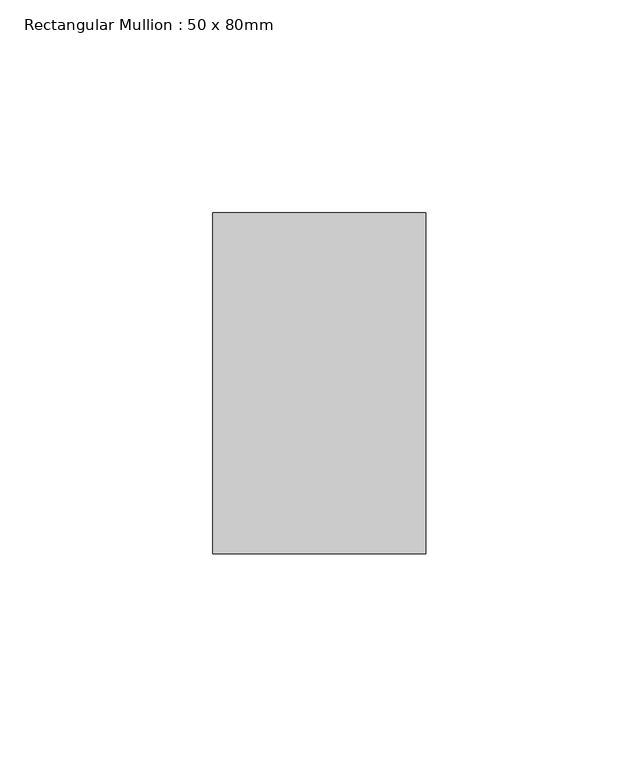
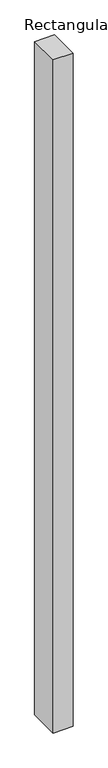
"""IFC4 building model written with IfcOpenShell, lengths in millimetres: member geometry, Rectangular Mullion : 50 x 80mm."""

from ifc_helpers import new_model, si_unit, frame, origin, place, context, project, spatial, polyline, outline, extrude, source, transform, mapped, element, save


def rectangular_mullion_50_x_80mm_e7675d2a(model_context):
    return source(origin(), model_context, "Body", "SweptSolid", [
        extrude(outline(polyline([(0.0, 55.0), (0.0, -25.0), (-50.0, -25.0), (-50.0, 55.0), (0.0, 55.0)])), frame((0.0, 0.0, -1780.0), z_axis=(0.0, 0.0, 1.0), x_axis=(1.0, 0.0, 0.0)), (0.0, 0.0, 1.0), 1780.0),
    ])


if __name__ == "__main__":
    model = new_model("IFC4")
    model_context = context("Model", 3, world=origin())
    ifc_project = project(units=[si_unit("LENGTHUNIT", "METRE", prefix="MILLI")], contexts=[model_context])
    site = spatial("IfcSite", under=ifc_project)
    building = spatial("IfcBuilding", under=site)
    placement = place(None, origin())
    rectangular_mullion_50_x_80mm_shape = rectangular_mullion_50_x_80mm_e7675d2a(model_context)
    element("IfcMember", 1, ObjectType="Rectangular Mullion : 50 x 80mm", at=placement, inside=building, context=model_context, shape_type="MappedRepresentation", body=[
        mapped(rectangular_mullion_50_x_80mm_shape, transform((0.0, 0.0, 0.0), x_axis=(1.0, 0.0, 0.0), y_axis=(0.0, 1.0, 0.0), z_axis=(0.0, 0.0, 1.0))),
    ])
    save(model, "model.ifc")
